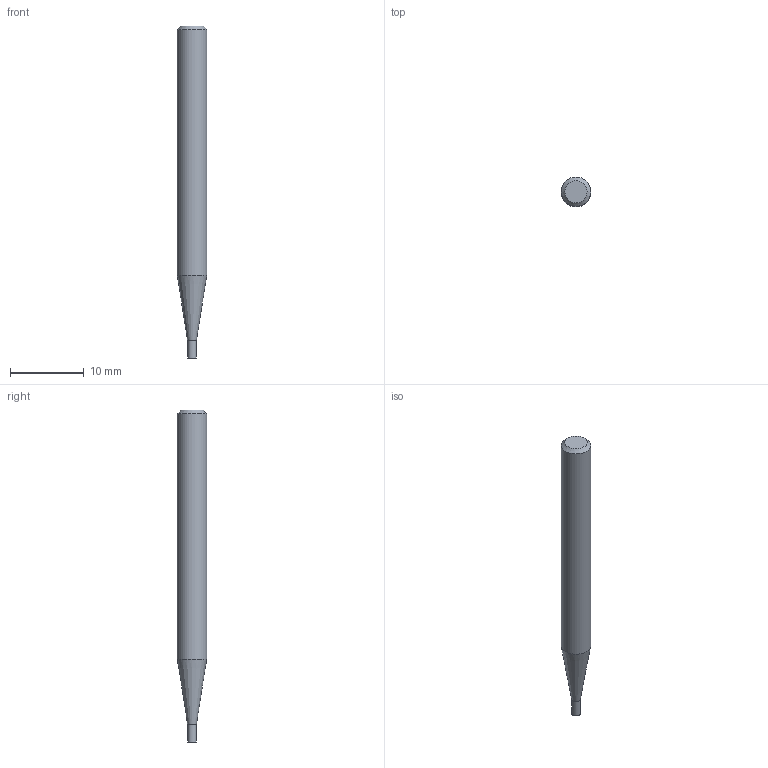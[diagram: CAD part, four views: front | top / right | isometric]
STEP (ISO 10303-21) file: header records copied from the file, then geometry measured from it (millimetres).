
FILE_DESCRIPTION((''),'2;1');
FILE_NAME('C:\Users\nsx150\AppData\Local\Temp\Mastercam 2021\QTW1OOEEGF\TEMP.step','2021-04-08T10:36:20',(''),(''),'STEP Write','Mastercam 2021 ... CNC Software, Inc.','');
FILE_SCHEMA(('AUTOMOTIVE_DESIGN'));
Length unit declared in the file: millimetre
Products named in the file (1): None
Bounding box: 4 x 4 x 45 mm (x, y, z)
Volume: 477 mm3; surface area: 518.4 mm2
Topology: 2 solids, 2 shells, 8 faces, 10 edges, 6 vertices
Faces by surface type: plane 4, cylinder 2, cone 2
Full cylindrical faces by diameter (mm): 1.2 x1, 4 x1
Entity records: 190 total; most frequent: DIRECTION 32, CARTESIAN_POINT 22, AXIS2_PLACEMENT_3D 16, ORIENTED_EDGE 12, EDGE_LOOP 12, STYLED_ITEM 11, ADVANCED_FACE 8, VERTEX_POINT 6
